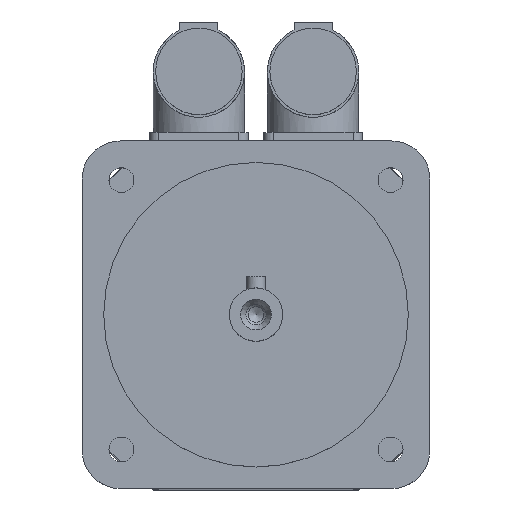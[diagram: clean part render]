
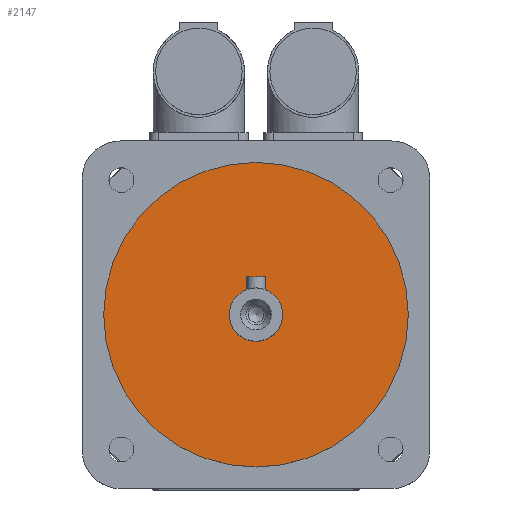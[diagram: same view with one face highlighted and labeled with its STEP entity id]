
A CAD part, top view. The second image highlights one B-rep face of the part: STEP entity #2147.
In plain terms, the highlighted planar face has unit normal (0, 0, 1).
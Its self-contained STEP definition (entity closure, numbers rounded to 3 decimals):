
#364=PLANE('',#2300);
#497=FACE_BOUND('',#679,.T.);
#533=FACE_OUTER_BOUND('',#678,.T.);
#678=EDGE_LOOP('',(#1534));
#679=EDGE_LOOP('',(#1535));
#830=CIRCLE('',#2299,7.);
#831=CIRCLE('',#2301,40.);
#978=VERTEX_POINT('',#3374);
#979=VERTEX_POINT('',#3377);
#1194=EDGE_CURVE('',#978,#978,#830,.T.);
#1195=EDGE_CURVE('',#979,#979,#831,.T.);
#1534=ORIENTED_EDGE('',*,*,#1195,.F.);
#1535=ORIENTED_EDGE('',*,*,#1194,.T.);
#2147=ADVANCED_FACE('',(#533,#497),#364,.T.);
#2299=AXIS2_PLACEMENT_3D('',#3375,#2624,#2625);
#2300=AXIS2_PLACEMENT_3D('',#3376,#2626,#2627);
#2301=AXIS2_PLACEMENT_3D('',#3378,#2628,#2629);
#2624=DIRECTION('center_axis',(0.,0.,-1.));
#2625=DIRECTION('ref_axis',(1.,0.,0.));
#2626=DIRECTION('center_axis',(0.,0.,1.));
#2627=DIRECTION('ref_axis',(1.,0.,0.));
#2628=DIRECTION('center_axis',(0.,0.,-1.));
#2629=DIRECTION('ref_axis',(1.,0.,0.));
#3374=CARTESIAN_POINT('',(0.,7.,178.));
#3375=CARTESIAN_POINT('Origin',(0.,0.,178.));
#3376=CARTESIAN_POINT('Origin',(0.,40.,178.));
#3377=CARTESIAN_POINT('',(0.,40.,178.));
#3378=CARTESIAN_POINT('Origin',(0.,0.,178.));
